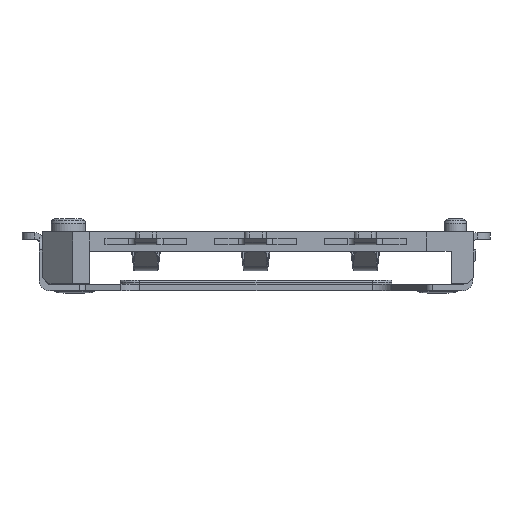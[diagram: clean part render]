
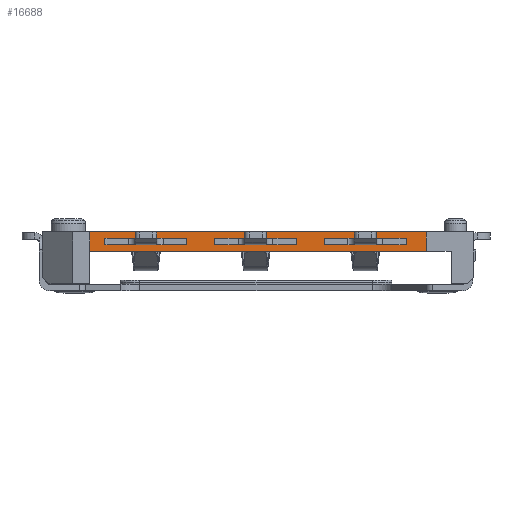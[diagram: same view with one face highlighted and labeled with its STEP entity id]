
A CAD part, left-side view. The second image highlights one B-rep face of the part: STEP entity #16688.
In plain terms, the highlighted planar face has unit normal (-1, 0, 0).
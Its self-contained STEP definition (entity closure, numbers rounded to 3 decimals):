
#1285=DIRECTION('',(0.,-1.,0.));
#1286=VECTOR('',#1285,7.8);
#1287=CARTESIAN_POINT('',(15.3,45.9,0.15));
#1288=LINE('',#1287,#1286);
#4645=DIRECTION('',(0.,-1.,0.));
#4646=VECTOR('',#4645,7.8);
#4647=CARTESIAN_POINT('',(15.3,45.9,-0.3));
#4648=LINE('',#4647,#4646);
#4649=DIRECTION('',(0.,0.,-1.));
#4650=VECTOR('',#4649,0.45);
#4651=CARTESIAN_POINT('',(15.3,45.9,0.15));
#4652=LINE('',#4651,#4650);
#4653=DIRECTION('',(0.,-1.,0.));
#4654=VECTOR('',#4653,1.901);
#4655=CARTESIAN_POINT('',(15.3,45.552,0.));
#4656=LINE('',#4655,#4654);
#4657=DIRECTION('',(0.,-1.,0.));
#4658=VECTOR('',#4657,1.901);
#4659=CARTESIAN_POINT('',(15.3,43.011,0.));
#4660=LINE('',#4659,#4658);
#4661=DIRECTION('',(0.,-1.,0.));
#4662=VECTOR('',#4661,1.901);
#4663=CARTESIAN_POINT('',(15.3,40.469,0.));
#4664=LINE('',#4663,#4662);
#4669=DIRECTION('',(0.,0.,-1.));
#4670=VECTOR('',#4669,0.45);
#4671=CARTESIAN_POINT('',(15.3,38.1,0.15));
#4672=LINE('',#4671,#4670);
#5475=DIRECTION('',(0.,0.,1.));
#5476=VECTOR('',#5475,0.15);
#5477=CARTESIAN_POINT('',(15.3,43.651,-0.15));
#5478=LINE('',#5477,#5476);
#5483=DIRECTION('',(0.,-1.,0.));
#5484=VECTOR('',#5483,1.901);
#5485=CARTESIAN_POINT('',(15.3,45.552,-0.15));
#5486=LINE('',#5485,#5484);
#5505=DIRECTION('',(0.,0.,-1.));
#5506=VECTOR('',#5505,0.15);
#5507=CARTESIAN_POINT('',(15.3,45.552,0.));
#5508=LINE('',#5507,#5506);
#5711=DIRECTION('',(0.,0.,1.));
#5712=VECTOR('',#5711,0.15);
#5713=CARTESIAN_POINT('',(15.3,41.109,-0.15));
#5714=LINE('',#5713,#5712);
#5719=DIRECTION('',(0.,-1.,0.));
#5720=VECTOR('',#5719,1.901);
#5721=CARTESIAN_POINT('',(15.3,43.011,-0.15));
#5722=LINE('',#5721,#5720);
#5741=DIRECTION('',(0.,0.,-1.));
#5742=VECTOR('',#5741,0.15);
#5743=CARTESIAN_POINT('',(15.3,43.011,0.));
#5744=LINE('',#5743,#5742);
#5955=DIRECTION('',(0.,0.,1.));
#5956=VECTOR('',#5955,0.15);
#5957=CARTESIAN_POINT('',(15.3,38.568,-0.15));
#5958=LINE('',#5957,#5956);
#5963=DIRECTION('',(0.,-1.,0.));
#5964=VECTOR('',#5963,1.901);
#5965=CARTESIAN_POINT('',(15.3,40.469,-0.15));
#5966=LINE('',#5965,#5964);
#5985=DIRECTION('',(0.,0.,-1.));
#5986=VECTOR('',#5985,0.15);
#5987=CARTESIAN_POINT('',(15.3,40.469,0.));
#5988=LINE('',#5987,#5986);
#9298=CARTESIAN_POINT('',(15.3,38.568,0.));
#9299=VERTEX_POINT('',#9298);
#9300=CARTESIAN_POINT('',(15.3,40.469,0.));
#9301=VERTEX_POINT('',#9300);
#9302=CARTESIAN_POINT('',(15.3,40.469,-0.15));
#9303=CARTESIAN_POINT('',(15.3,38.568,-0.15));
#9304=VERTEX_POINT('',#9302);
#9305=VERTEX_POINT('',#9303);
#9480=CARTESIAN_POINT('',(15.3,41.109,0.));
#9481=VERTEX_POINT('',#9480);
#9482=CARTESIAN_POINT('',(15.3,43.011,0.));
#9483=VERTEX_POINT('',#9482);
#9484=CARTESIAN_POINT('',(15.3,43.011,-0.15));
#9485=VERTEX_POINT('',#9484);
#9486=CARTESIAN_POINT('',(15.3,41.109,-0.15));
#9487=VERTEX_POINT('',#9486);
#9825=CARTESIAN_POINT('',(15.3,43.651,-0.15));
#9826=CARTESIAN_POINT('',(15.3,43.651,0.));
#9827=VERTEX_POINT('',#9825);
#9828=VERTEX_POINT('',#9826);
#9829=CARTESIAN_POINT('',(15.3,45.552,-0.15));
#9830=VERTEX_POINT('',#9829);
#9831=CARTESIAN_POINT('',(15.3,45.552,0.));
#9832=VERTEX_POINT('',#9831);
#10613=CARTESIAN_POINT('',(15.3,45.9,-0.3));
#10614=VERTEX_POINT('',#10613);
#10615=CARTESIAN_POINT('',(15.3,45.9,0.15));
#10616=VERTEX_POINT('',#10615);
#10673=CARTESIAN_POINT('',(15.3,38.1,0.15));
#10674=VERTEX_POINT('',#10673);
#10675=CARTESIAN_POINT('',(15.3,38.1,-0.3));
#10676=VERTEX_POINT('',#10675);
#16646=CARTESIAN_POINT('',(15.3,6205.803,-0.3));
#16647=DIRECTION('',(1.,0.,0.));
#16648=DIRECTION('',(0.,0.,1.));
#16649=AXIS2_PLACEMENT_3D('',#16646,#16647,#16648);
#16650=PLANE('',#16649);
#16651=ORIENTED_EDGE('',*,*,#12247,.T.);
#16653=ORIENTED_EDGE('',*,*,#16652,.T.);
#16654=ORIENTED_EDGE('',*,*,#12833,.F.);
#16655=ORIENTED_EDGE('',*,*,#16216,.F.);
#16656=EDGE_LOOP('',(#16651,#16653,#16654,#16655));
#16657=FACE_OUTER_BOUND('',#16656,.F.);
#16659=ORIENTED_EDGE('',*,*,#16658,.F.);
#16661=ORIENTED_EDGE('',*,*,#16660,.T.);
#16663=ORIENTED_EDGE('',*,*,#16662,.T.);
#16665=ORIENTED_EDGE('',*,*,#16664,.T.);
#16666=EDGE_LOOP('',(#16659,#16661,#16663,#16665));
#16667=FACE_BOUND('',#16666,.F.);
#16669=ORIENTED_EDGE('',*,*,#16668,.F.);
#16671=ORIENTED_EDGE('',*,*,#16670,.T.);
#16673=ORIENTED_EDGE('',*,*,#16672,.T.);
#16675=ORIENTED_EDGE('',*,*,#16674,.T.);
#16676=EDGE_LOOP('',(#16669,#16671,#16673,#16675));
#16677=FACE_BOUND('',#16676,.F.);
#16679=ORIENTED_EDGE('',*,*,#16678,.F.);
#16681=ORIENTED_EDGE('',*,*,#16680,.T.);
#16683=ORIENTED_EDGE('',*,*,#16682,.T.);
#16685=ORIENTED_EDGE('',*,*,#16684,.T.);
#16686=EDGE_LOOP('',(#16679,#16681,#16683,#16685));
#16687=FACE_BOUND('',#16686,.F.);
#12247=EDGE_CURVE('',#10616,#10674,#1288,.T.);
#12833=EDGE_CURVE('',#10614,#10676,#4648,.T.);
#16216=EDGE_CURVE('',#10616,#10614,#4652,.T.);
#16652=EDGE_CURVE('',#10674,#10676,#4672,.T.);
#16658=EDGE_CURVE('',#9832,#9828,#4656,.T.);
#16660=EDGE_CURVE('',#9832,#9830,#5508,.T.);
#16662=EDGE_CURVE('',#9830,#9827,#5486,.T.);
#16664=EDGE_CURVE('',#9827,#9828,#5478,.T.);
#16668=EDGE_CURVE('',#9483,#9481,#4660,.T.);
#16670=EDGE_CURVE('',#9483,#9485,#5744,.T.);
#16672=EDGE_CURVE('',#9485,#9487,#5722,.T.);
#16674=EDGE_CURVE('',#9487,#9481,#5714,.T.);
#16678=EDGE_CURVE('',#9301,#9299,#4664,.T.);
#16680=EDGE_CURVE('',#9301,#9304,#5988,.T.);
#16682=EDGE_CURVE('',#9304,#9305,#5966,.T.);
#16684=EDGE_CURVE('',#9305,#9299,#5958,.T.);
#16688=ADVANCED_FACE('',(#16657,#16667,#16677,#16687),#16650,.F.);
